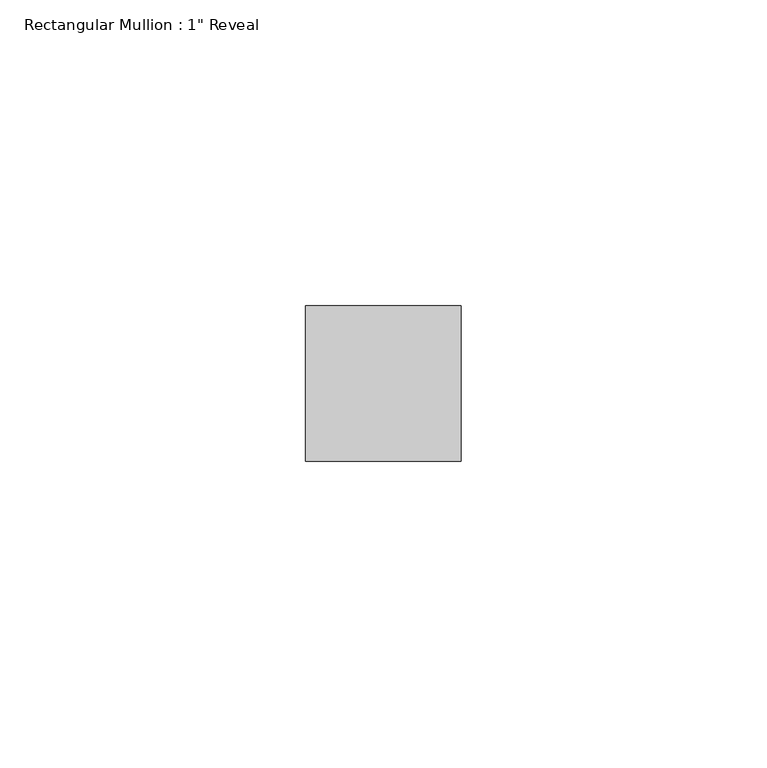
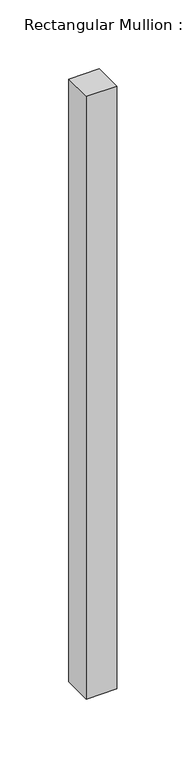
"""IFC4 building model written with IfcOpenShell, lengths in millimetres: member geometry."""

from ifc_helpers import new_model, si_unit, frame, origin, place, context, project, spatial, polyline, outline, extrude, source, transform, mapped, element, save


def member_f8418f2c(model_context):
    return source(origin(), model_context, "Body", "SweptSolid", [
        extrude(outline(polyline([(12.7, 12.7), (12.7, -12.7), (-12.7, -12.7), (-12.7, 12.7), (12.7, 12.7)])), frame((0.0, 0.0, -533.4), z_axis=(0.0, 0.0, 1.0), x_axis=(1.0, 0.0, 0.0)), (0.0, 0.0, 1.0), 533.4),
    ])


if __name__ == "__main__":
    model = new_model("IFC4")
    model_context = context("Model", 3, world=origin())
    ifc_project = project(units=[si_unit("LENGTHUNIT", "METRE", prefix="MILLI")], contexts=[model_context])
    site = spatial("IfcSite", under=ifc_project)
    building = spatial("IfcBuilding", under=site)
    placement = place(None, origin())
    member_shape = member_f8418f2c(model_context)
    element("IfcMember", 1, ObjectType="Rectangular Mullion : 1\" Reveal", at=placement, inside=building, context=model_context, shape_type="MappedRepresentation", body=[
        mapped(member_shape, transform((0.0, 0.0, 0.0), x_axis=(1.0, 0.0, 0.0), y_axis=(0.0, 1.0, 0.0), z_axis=(0.0, 0.0, 1.0))),
    ])
    save(model, "model.ifc")
